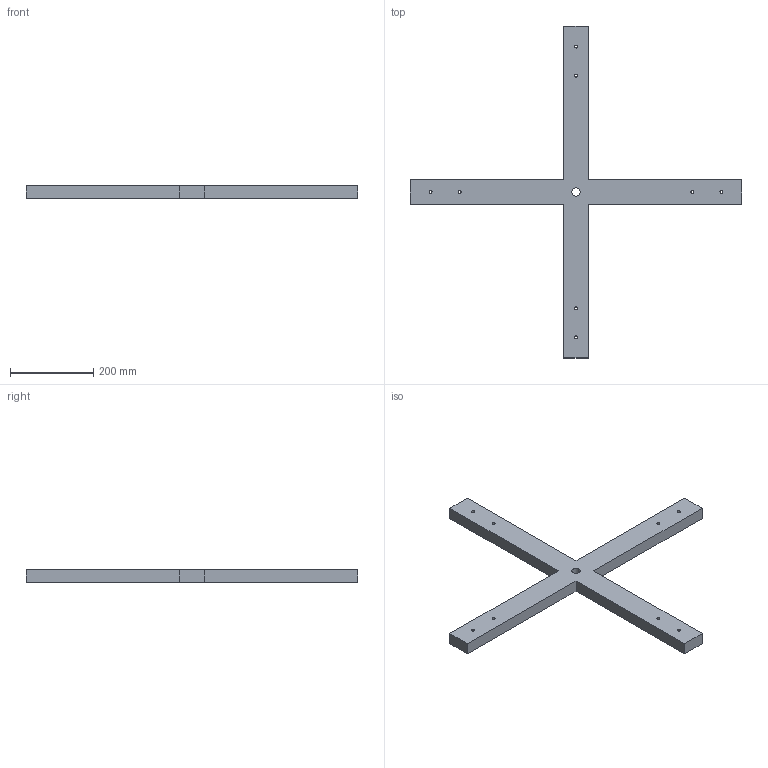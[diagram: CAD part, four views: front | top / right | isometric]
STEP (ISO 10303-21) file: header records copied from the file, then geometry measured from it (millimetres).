
FILE_DESCRIPTION( ( 'STEP AP214' ), '1' );
FILE_NAME( 'D:/Yug/2021/Delta/desk_and_office_organisation/QC/48533.stp', '2021-01-20T05:59:33', ( '' ), ( '' ), ' ', 'PARTsolutions', ' ' );
FILE_SCHEMA( ( 'AUTOMOTIVE_DESIGN { 1 0 10303 214 1 1 1 1 }' ) );
Length unit declared in the file: millimetre
Products named in the file (1): _48533
Bounding box: 798 x 798 x 30 mm (x, y, z)
Volume: 2746138.9 mm3; surface area: 285998.8 mm2
Topology: 1 solids, 1 shells, 23 faces, 63 edges, 42 vertices
Faces by surface type: plane 14, cylinder 9
Full cylindrical faces by diameter (mm): 7 x8, 20 x1
Entity records: 926 total; most frequent: CARTESIAN_POINT 120, DIRECTION 120, ORIENTED_EDGE 108, EDGE_CURVE 54, EDGE_LOOP 50, AXIS2_PLACEMENT_3D 42, VERTEX_POINT 42, LINE 36
